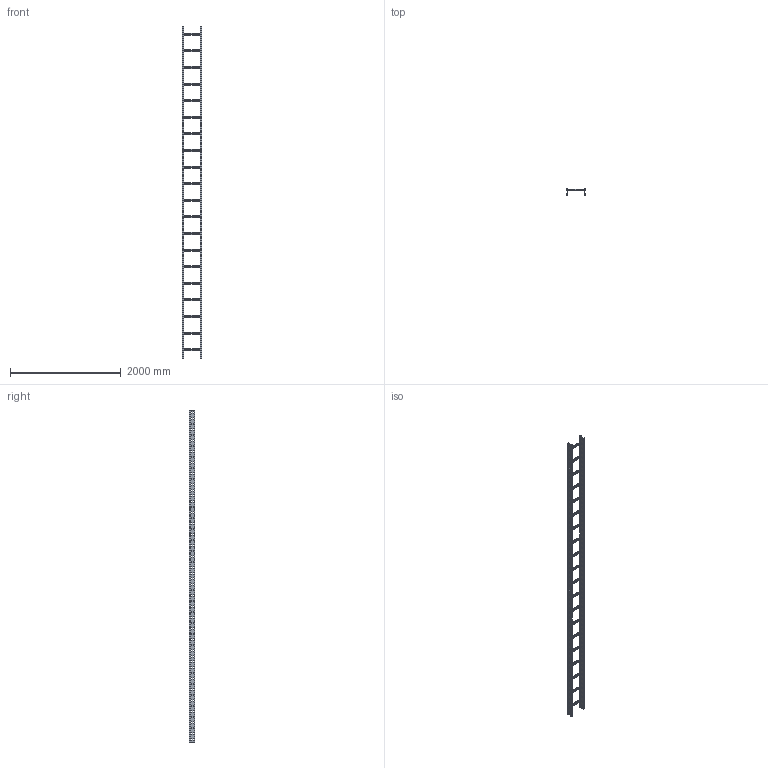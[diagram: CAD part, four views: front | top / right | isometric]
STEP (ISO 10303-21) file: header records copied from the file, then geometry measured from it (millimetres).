
FILE_DESCRIPTION(('Creo Elements/Direct Modeling STEP Export'),'2;1');
FILE_NAME('WP10-30.stp','2016-05-13T13:20:25',(''),(''),'PTC Creo Elements/Direct Modeling STEP processor for AP214 (Solid Model)','PTC Creo Elements/Direct Modeling 19.0C 15-Aug-2015 (C) Parametric Technology GmbH','');
FILE_SCHEMA(('AUTOMOTIVE_DESIGN { 1 0 10303 214 1 1 1 1 }'));
Length unit declared in the file: millimetre
Products named in the file (3): WPSP_03; WPH_100B_S_; WP10-30
Assembly tree (22 placements, depth 2):
  WP10-30
    WPSP_03  x20
    WPH_100B_S_  x2
Bounding box: 350 x 100 x 6000 mm (x, y, z)
Volume: 3668918.6 mm3; surface area: 4989359.9 mm2
Topology: 22 solids, 22 shells, 2956 faces, 8736 edges, 5824 vertices
Faces by surface type: plane 1968, cylinder 988
Entity records: 22170 total; most frequent: ORIENTED_EDGE 3876, CARTESIAN_POINT 3857, DIRECTION 3391, EDGE_CURVE 1938, VECTOR 1739, LINE 1739, VERTEX_POINT 1292, EDGE_LOOP 952
